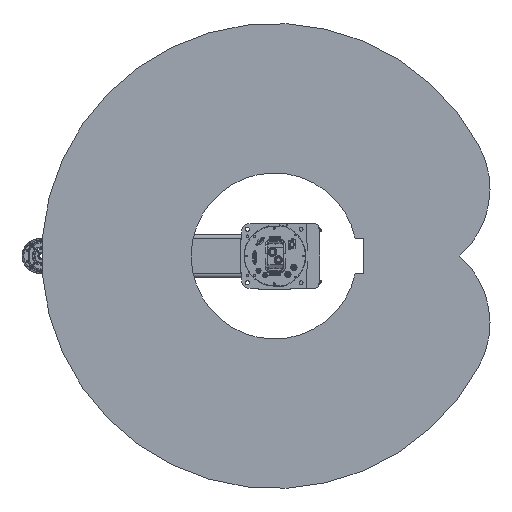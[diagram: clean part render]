
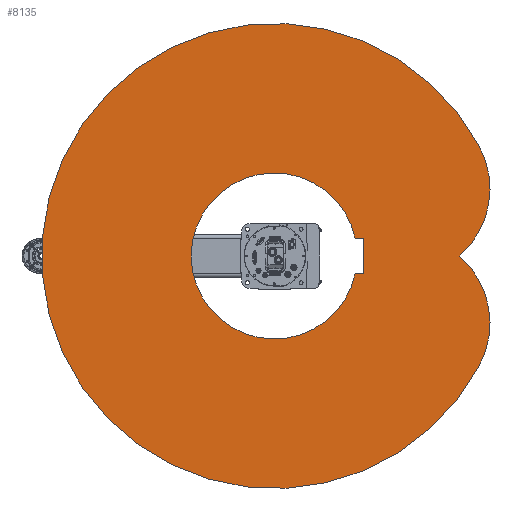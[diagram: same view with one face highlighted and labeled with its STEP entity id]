
A CAD part, front view. The second image highlights one B-rep face of the part: STEP entity #8135.
In plain terms, the highlighted planar face has unit normal (0, -1, 0).
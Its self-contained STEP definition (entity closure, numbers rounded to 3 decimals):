
#8135 = ADVANCED_FACE( '', ( #17420, #17421 ), #17422, .F. );
#17420 = FACE_OUTER_BOUND( '', #27661, .T. );
#17421 = FACE_BOUND( '', #27662, .T. );
#17422 = PLANE( '', #27663 );
#27661 = EDGE_LOOP( '', ( #49823, #49824, #49825 ) );
#27662 = EDGE_LOOP( '', ( #49826, #49827, #49828, #49829 ) );
#27663 = AXIS2_PLACEMENT_3D( '', #49830, #49831, #49832 );
#49823 = ORIENTED_EDGE( '', *, *, #54845, .F. );
#49824 = ORIENTED_EDGE( '', *, *, #60062, .F. );
#49825 = ORIENTED_EDGE( '', *, *, #59389, .F. );
#49826 = ORIENTED_EDGE( '', *, *, #53492, .T. );
#49827 = ORIENTED_EDGE( '', *, *, #53706, .T. );
#49828 = ORIENTED_EDGE( '', *, *, #53725, .T. );
#49829 = ORIENTED_EDGE( '', *, *, #57505, .T. );
#49830 = CARTESIAN_POINT( '', ( 93.894, 0., 176.59 ) );
#49831 = DIRECTION( '', ( 0., 1., 0. ) );
#49832 = DIRECTION( '', ( 0., 0., 1. ) );
#53492 = EDGE_CURVE( '', #63658, #63656, #63659, .T. );
#53706 = EDGE_CURVE( '', #63656, #64021, #64022, .T. );
#53725 = EDGE_CURVE( '', #64021, #64052, #64053, .T. );
#54845 = EDGE_CURVE( '', #65938, #65939, #65940, .T. );
#57505 = EDGE_CURVE( '', #64052, #63658, #69967, .T. );
#59389 = EDGE_CURVE( '', #65939, #72404, #72405, .T. );
#60062 = EDGE_CURVE( '', #72404, #65938, #73182, .T. );
#63656 = VERTEX_POINT( '', #79010 );
#63658 = VERTEX_POINT( '', #79013 );
#63659 = LINE( '', #79014, #79015 );
#64021 = VERTEX_POINT( '', #79629 );
#64022 = LINE( '', #79630, #79631 );
#64052 = VERTEX_POINT( '', #79669 );
#64053 = LINE( '', #79670, #79671 );
#65938 = VERTEX_POINT( '', #83133 );
#65939 = VERTEX_POINT( '', #83134 );
#65940 = CIRCLE( '', #83135, 250. );
#69967 = CIRCLE( '', #90071, 232. );
#72404 = VERTEX_POINT( '', #94500 );
#72405 = CIRCLE( '', #94501, 650. );
#73182 = CIRCLE( '', #95771, 250. );
#79010 = CARTESIAN_POINT( '', ( -50., 0., 250. ) );
#79013 = CARTESIAN_POINT( '', ( -50., 0., 226.548 ) );
#79014 = CARTESIAN_POINT( '', ( -50., 0., 0. ) );
#79015 = VECTOR( '', #98717, 1000. );
#79629 = CARTESIAN_POINT( '', ( 50., 0., 250. ) );
#79630 = CARTESIAN_POINT( '', ( -50., 0., 250. ) );
#79631 = VECTOR( '', #98969, 1000. );
#79669 = CARTESIAN_POINT( '', ( 50., 0., 226.548 ) );
#79670 = CARTESIAN_POINT( '', ( 50., 0., 250. ) );
#79671 = VECTOR( '', #98993, 1000. );
#83133 = CARTESIAN_POINT( '', ( 0., 0., 518.211 ) );
#83134 = CARTESIAN_POINT( '', ( 305.157, 0., 573.916 ) );
#83135 = AXIS2_PLACEMENT_3D( '', #100421, #100422, #100423 );
#90071 = AXIS2_PLACEMENT_3D( '', #103641, #103642, #103643 );
#94500 = CARTESIAN_POINT( '', ( -305.157, 0., 573.916 ) );
#94501 = AXIS2_PLACEMENT_3D( '', #105445, #105446, #105447 );
#95771 = AXIS2_PLACEMENT_3D( '', #105993, #105994, #105995 );
#98717 = DIRECTION( '', ( 0., 0., 1. ) );
#98969 = DIRECTION( '', ( 1., 0., 0. ) );
#98993 = DIRECTION( '', ( 0., 0., -1. ) );
#100421 = CARTESIAN_POINT( '', ( 187.789, 0., 353.179 ) );
#100422 = DIRECTION( '', ( 0., 1., 0. ) );
#100423 = DIRECTION( '', ( 1., 0., 0. ) );
#103641 = CARTESIAN_POINT( '', ( 0., 0., 0. ) );
#103642 = DIRECTION( '', ( 0., 1., 0. ) );
#103643 = DIRECTION( '', ( 1., 0., 0. ) );
#105445 = CARTESIAN_POINT( '', ( 0., 0., 0. ) );
#105446 = DIRECTION( '', ( 0., 1., 0. ) );
#105447 = DIRECTION( '', ( 1., 0., 0. ) );
#105993 = CARTESIAN_POINT( '', ( -187.789, 0., 353.179 ) );
#105994 = DIRECTION( '', ( 0., 1., 0. ) );
#105995 = DIRECTION( '', ( 1., 0., 0. ) );
